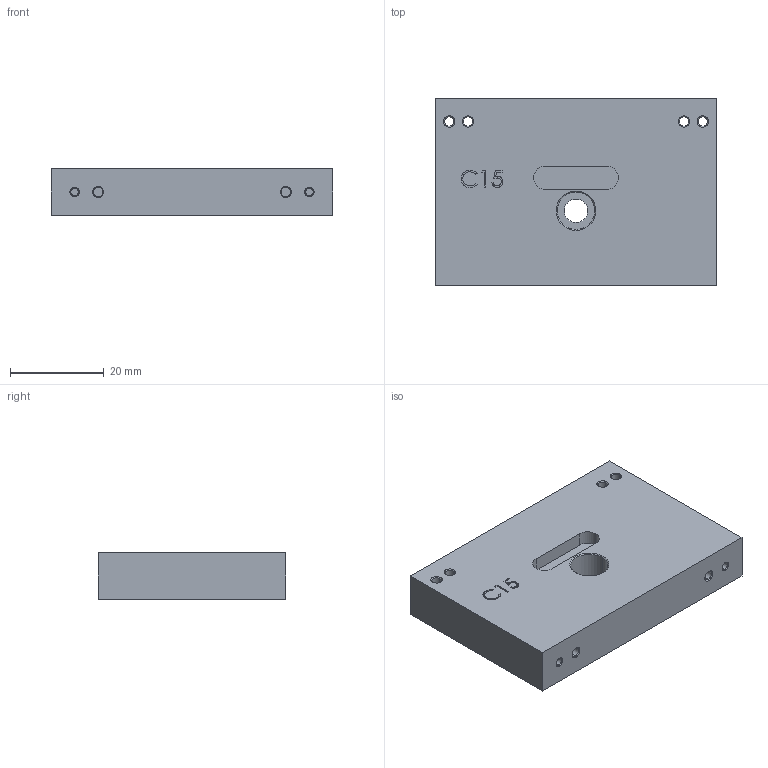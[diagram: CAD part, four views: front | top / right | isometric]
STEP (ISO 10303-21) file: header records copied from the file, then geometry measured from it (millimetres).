
FILE_DESCRIPTION (( 'STEP AP214' ), '1' );
FILE_NAME ('C15_N.STEP', '2016-02-27T13:07:48', ( '' ), ( '' ), 'SwSTEP 2.0', 'SolidWorks 2012', '' );
FILE_SCHEMA (( 'AUTOMOTIVE_DESIGN' ));
Length unit declared in the file: millimetre
Products named in the file (1): C15_N
Bounding box: 60 x 40 x 10 mm (x, y, z)
Volume: 23082.5 mm3; surface area: 7596.2 mm2
Topology: 1 solids, 1 shells, 104 faces, 247 edges, 156 vertices
Faces by surface type: plane 33, cylinder 28, cone 26, bspline 17
Entity records: 4049 total; most frequent: CARTESIAN_POINT 1637, ORIENTED_EDGE 494, DIRECTION 471, EDGE_CURVE 247, AXIS2_PLACEMENT_3D 170, VERTEX_POINT 156, LINE 131, VECTOR 131
